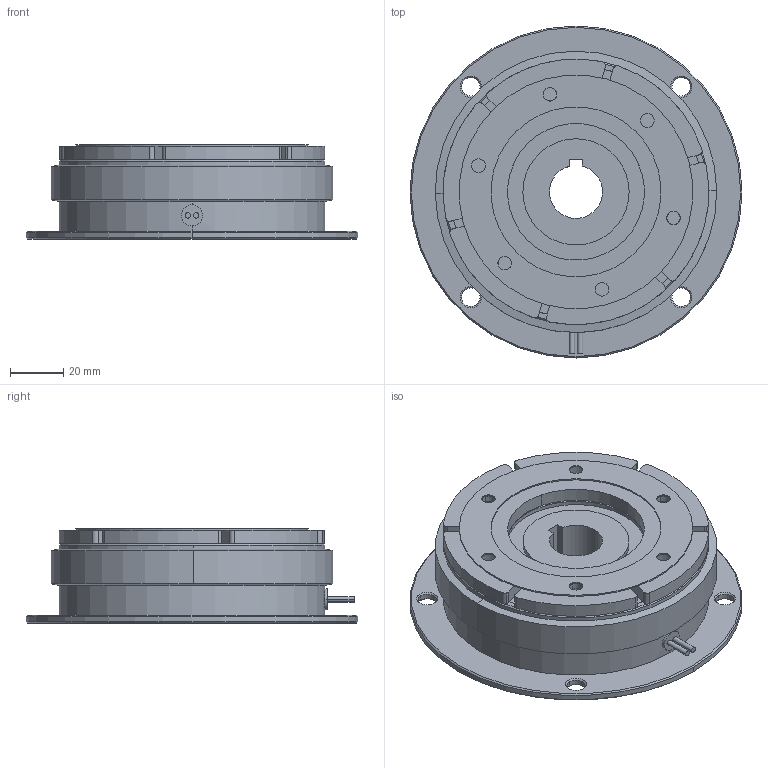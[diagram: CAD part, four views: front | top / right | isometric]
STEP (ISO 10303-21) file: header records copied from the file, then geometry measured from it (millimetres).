
FILE_DESCRIPTION (( 'STEP AP214' ), '1' );
FILE_NAME ('C-M20-F01-20.STEP', '2018-02-06T02:46:18', ( 'tec4' ), ( '' ), 'SwSTEP 2.0', 'SolidWorks 2015', '' );
FILE_SCHEMA (( 'AUTOMOTIVE_DESIGN' ));
Length unit declared in the file: millimetre
Products named in the file (1): C-M20-F01-20
Bounding box: 125 x 125 x 35.6 mm (x, y, z)
Surface area: 63295.6 mm2 (no closed solid volume)
Topology: 0 solids, 10 shells, 165 faces, 430 edges, 276 vertices
Faces by surface type: cylinder 92, cone 36, plane 31, torus 6
Entity records: 7095 total; most frequent: DIRECTION 1010, CARTESIAN_POINT 938, ORIENTED_EDGE 812, EDGE_CURVE 430, AXIS2_PLACEMENT_3D 416, VERTEX_POINT 276, CIRCLE 250, EDGE_LOOP 212
